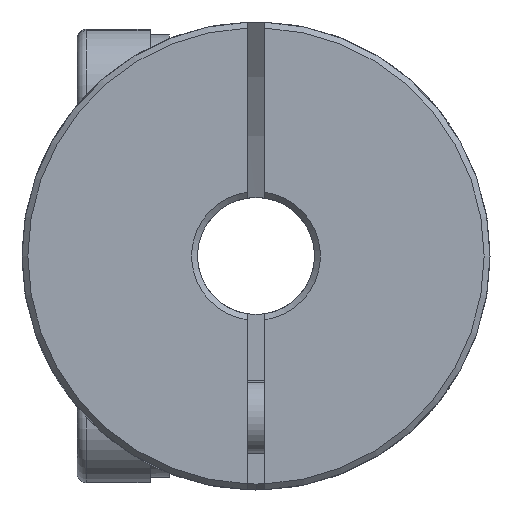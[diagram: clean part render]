
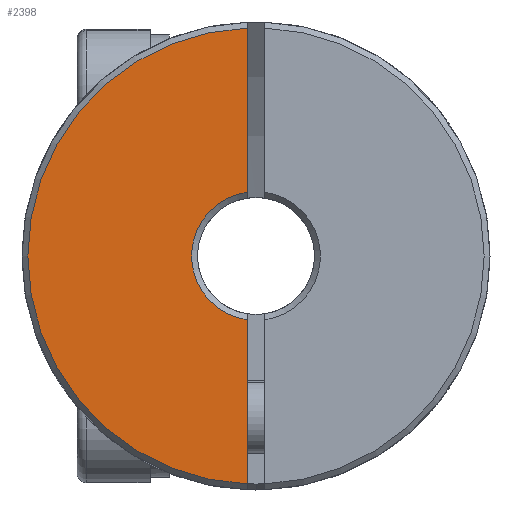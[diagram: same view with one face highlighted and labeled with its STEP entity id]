
A CAD part, front view. The second image highlights one B-rep face of the part: STEP entity #2398.
In plain terms, the highlighted planar face has unit normal (0, -1, 0).
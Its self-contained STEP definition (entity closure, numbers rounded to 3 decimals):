
#52 = VECTOR ( 'NONE', #5633, 1000. ) ;
#141 = AXIS2_PLACEMENT_3D ( 'NONE', #914, #5607, #6814 ) ;
#150 = FACE_OUTER_BOUND ( 'NONE', #6638, .T. ) ;
#631 = EDGE_CURVE ( 'NONE', #5356, #6417, #5362, .T. ) ;
#775 = DIRECTION ( 'NONE',  ( 0., 1., 0. ) ) ;
#890 = DIRECTION ( 'NONE',  ( 0., -1., 0. ) ) ;
#914 = CARTESIAN_POINT ( 'NONE',  ( 0., -15.02, 0. ) ) ;
#941 = CARTESIAN_POINT ( 'NONE',  ( 0., -15.02, 0. ) ) ;
#1456 = ORIENTED_EDGE ( 'NONE', *, *, #631, .T. ) ;
#1701 = CIRCLE ( 'NONE', #4419, 7.8 ) ;
#2398 = ADVANCED_FACE ( 'NONE', ( #150 ), #3171, .F. ) ;
#3171 = PLANE ( 'NONE',  #141 ) ;
#3634 = VERTEX_POINT ( 'NONE', #5664 ) ;
#4063 = EDGE_CURVE ( 'NONE', #5866, #6417, #6454, .T. ) ;
#4108 = EDGE_CURVE ( 'NONE', #5866, #3634, #1701, .T. ) ;
#4374 = CARTESIAN_POINT ( 'NONE',  ( -0.3, -15.02, 0. ) ) ;
#4419 = AXIS2_PLACEMENT_3D ( 'NONE', #941, #890, #6318 ) ;
#4719 = VECTOR ( 'NONE', #6610, 1000. ) ;
#4780 = ORIENTED_EDGE ( 'NONE', *, *, #4063, .F. ) ;
#4958 = DIRECTION ( 'NONE',  ( 0., 0., 1. ) ) ;
#5356 = VERTEX_POINT ( 'NONE', #6774 ) ;
#5362 = CIRCLE ( 'NONE', #6557, 2.2 ) ;
#5607 = DIRECTION ( 'NONE',  ( 0., 1., 0. ) ) ;
#5633 = DIRECTION ( 'NONE',  ( 0., 0., -1. ) ) ;
#5664 = CARTESIAN_POINT ( 'NONE',  ( -0.3, -15.02, -7.794 ) ) ;
#5866 = VERTEX_POINT ( 'NONE', #7404 ) ;
#6006 = CARTESIAN_POINT ( 'NONE',  ( -0.3, -15.02, 0. ) ) ;
#6318 = DIRECTION ( 'NONE',  ( 0., 0., 1. ) ) ;
#6320 = ORIENTED_EDGE ( 'NONE', *, *, #6834, .F. ) ;
#6411 = LINE ( 'NONE', #6006, #4719 ) ;
#6417 = VERTEX_POINT ( 'NONE', #6858 ) ;
#6454 = LINE ( 'NONE', #4374, #52 ) ;
#6557 = AXIS2_PLACEMENT_3D ( 'NONE', #7152, #775, #4958 ) ;
#6610 = DIRECTION ( 'NONE',  ( 0., 0., -1. ) ) ;
#6638 = EDGE_LOOP ( 'NONE', ( #4780, #6645, #6320, #1456 ) ) ;
#6645 = ORIENTED_EDGE ( 'NONE', *, *, #4108, .T. ) ;
#6774 = CARTESIAN_POINT ( 'NONE',  ( -0.3, -15.02, -2.179 ) ) ;
#6814 = DIRECTION ( 'NONE',  ( 0., 0., 1. ) ) ;
#6834 = EDGE_CURVE ( 'NONE', #5356, #3634, #6411, .T. ) ;
#6858 = CARTESIAN_POINT ( 'NONE',  ( -0.3, -15.02, 2.179 ) ) ;
#7152 = CARTESIAN_POINT ( 'NONE',  ( 0., -15.02, 0. ) ) ;
#7404 = CARTESIAN_POINT ( 'NONE',  ( -0.3, -15.02, 7.794 ) ) ;
